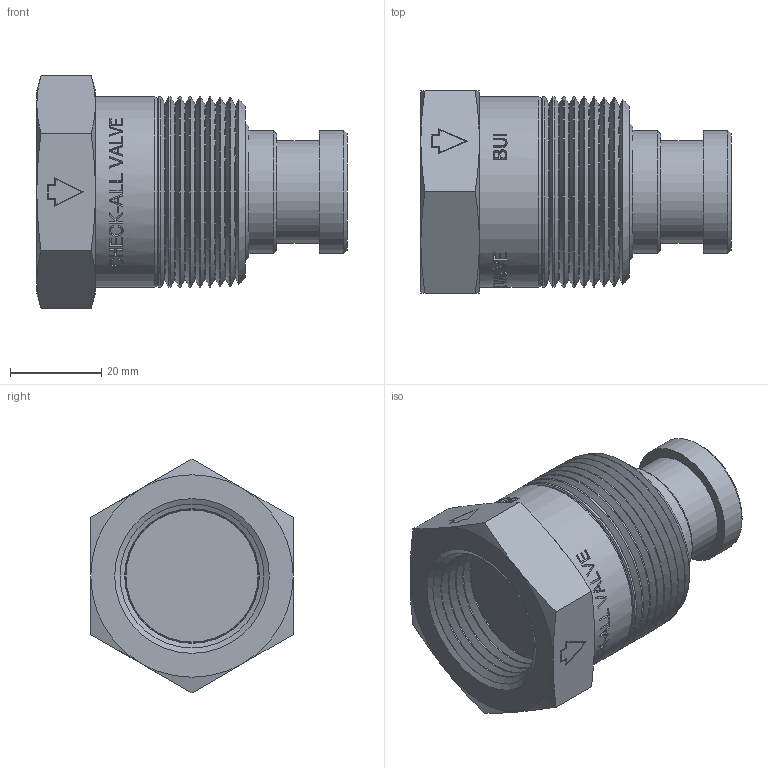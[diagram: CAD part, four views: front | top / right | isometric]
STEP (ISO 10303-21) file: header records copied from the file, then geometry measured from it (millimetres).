
FILE_DESCRIPTION( ( 'Unknown' ), '1' );
FILE_NAME( 'Y:/ENGR/Catalog & Web/3D Models for Web/BU/STEP/BUI.stp', 'Unknown', ( 'Unknown' ), ( 'Unknown' ), 'PSStep 14.0', 'Unknown', ' ' );
FILE_SCHEMA( ( 'AUTOMOTIVE_DESIGN { 1 0 10303 214 1 1 1 1 }' ) );
Length unit declared in the file: inch
Products named in the file (1): 1
Bounding box: 68.1 x 44.45 x 51.33 mm (x, y, z)
Volume: 66764 mm3; surface area: 15768.7 mm2
Topology: 1 solids, 1 shells, 293 faces, 710 edges, 453 vertices
Faces by surface type: plane 153, cone 69, bspline 39, cylinder 31, torus 1
Full cylindrical faces by diameter (mm): 22.606 x1, 27 x2, 41.808 x7
Entity records: 12720 total; most frequent: CARTESIAN_POINT 4729, ORIENTED_EDGE 1260, DIRECTION 816, EDGE_CURVE 630, VERTEX_POINT 441, B_SPLINE_CURVE_WITH_KNOTS 411, EDGE_LOOP 395, AXIS2_PLACEMENT_3D 342
